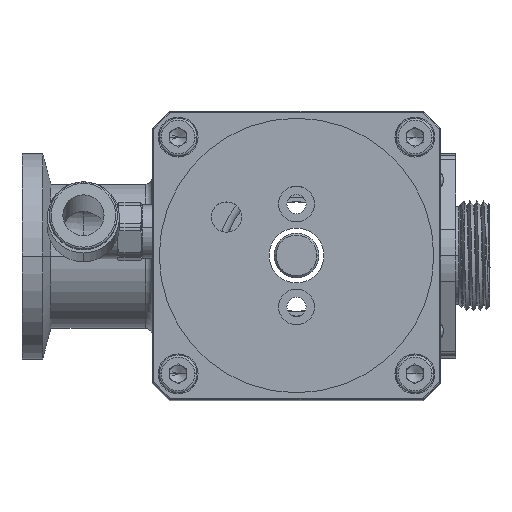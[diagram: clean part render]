
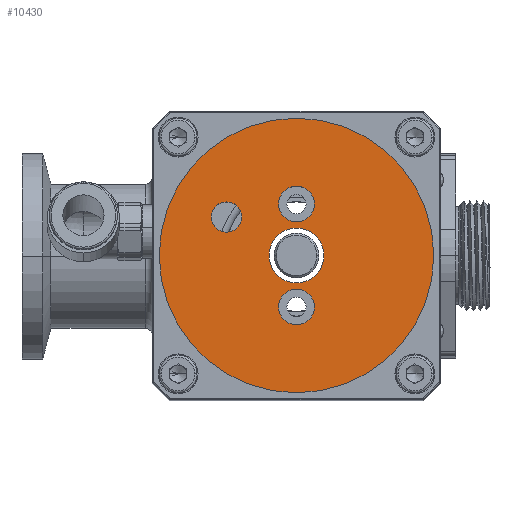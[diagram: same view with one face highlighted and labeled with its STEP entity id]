
A CAD part, top view. The second image highlights one B-rep face of the part: STEP entity #10430.
In plain terms, the highlighted planar face has unit normal (0, 0, 1).
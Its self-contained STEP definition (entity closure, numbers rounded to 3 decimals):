
#102 = CARTESIAN_POINT ( 'NONE',  ( -8., 5.6, 87.8 ) ) ;
#229 = CIRCLE ( 'NONE', #2751, 4. ) ;
#247 = EDGE_LOOP ( 'NONE', ( #4146, #2441 ) ) ;
#308 = DIRECTION ( 'NONE',  ( 0., 0., 1. ) ) ;
#330 = AXIS2_PLACEMENT_3D ( 'NONE', #4486, #12132, #9391 ) ;
#396 = CIRCLE ( 'NONE', #7054, 2.6 ) ;
#491 = EDGE_CURVE ( 'NONE', #4944, #7074, #11971, .T. ) ;
#503 = CARTESIAN_POINT ( 'NONE',  ( 0., 0., 87.8 ) ) ;
#523 = DIRECTION ( 'NONE',  ( 1., 0., 0. ) ) ;
#737 = DIRECTION ( 'NONE',  ( 0., 0., 1. ) ) ;
#758 = DIRECTION ( 'NONE',  ( 1., 0., 0. ) ) ;
#832 = FACE_BOUND ( 'NONE', #13118, .T. ) ;
#861 = CIRCLE ( 'NONE', #8599, 2.6 ) ;
#963 = EDGE_CURVE ( 'NONE', #5778, #12424, #10087, .T. ) ;
#968 = EDGE_CURVE ( 'NONE', #12764, #2480, #861, .T. ) ;
#1001 = VERTEX_POINT ( 'NONE', #8395 ) ;
#1219 = CARTESIAN_POINT ( 'NONE',  ( -2.6, -7.5, 87.8 ) ) ;
#1371 = ORIENTED_EDGE ( 'NONE', *, *, #12512, .F. ) ;
#1500 = EDGE_CURVE ( 'NONE', #7074, #4944, #8007, .T. ) ;
#1610 = CARTESIAN_POINT ( 'NONE',  ( 20., 0., 87.8 ) ) ;
#1702 = DIRECTION ( 'NONE',  ( 0., 0., 1. ) ) ;
#1890 = CARTESIAN_POINT ( 'NONE',  ( 2.6, -7.5, 87.8 ) ) ;
#1909 = ORIENTED_EDGE ( 'NONE', *, *, #968, .F. ) ;
#2010 = DIRECTION ( 'NONE',  ( 1., 0., 0. ) ) ;
#2441 = ORIENTED_EDGE ( 'NONE', *, *, #963, .T. ) ;
#2480 = VERTEX_POINT ( 'NONE', #10368 ) ;
#2604 = DIRECTION ( 'NONE',  ( 1., 0., 0. ) ) ;
#2701 = FACE_OUTER_BOUND ( 'NONE', #11518, .T. ) ;
#2751 = AXIS2_PLACEMENT_3D ( 'NONE', #503, #7066, #13482 ) ;
#3032 = FACE_BOUND ( 'NONE', #5966, .T. ) ;
#3642 = CARTESIAN_POINT ( 'NONE',  ( 0., -7.5, 87.8 ) ) ;
#3988 = PLANE ( 'NONE',  #8147 ) ;
#3995 = DIRECTION ( 'NONE',  ( 0., 0., 1. ) ) ;
#4030 = CIRCLE ( 'NONE', #6263, 2.6 ) ;
#4146 = ORIENTED_EDGE ( 'NONE', *, *, #8516, .T. ) ;
#4184 = DIRECTION ( 'NONE',  ( 0., 0., 1. ) ) ;
#4213 = AXIS2_PLACEMENT_3D ( 'NONE', #8354, #737, #7252 ) ;
#4477 = EDGE_LOOP ( 'NONE', ( #10635, #1909 ) ) ;
#4482 = ORIENTED_EDGE ( 'NONE', *, *, #5906, .F. ) ;
#4486 = CARTESIAN_POINT ( 'NONE',  ( -10.2, 5.6, 87.8 ) ) ;
#4635 = DIRECTION ( 'NONE',  ( 1., 0., 0. ) ) ;
#4944 = VERTEX_POINT ( 'NONE', #12452 ) ;
#5607 = FACE_BOUND ( 'NONE', #4477, .T. ) ;
#5655 = CARTESIAN_POINT ( 'NONE',  ( -12.4, 5.6, 87.8 ) ) ;
#5778 = VERTEX_POINT ( 'NONE', #5655 ) ;
#5906 = EDGE_CURVE ( 'NONE', #1001, #6339, #229, .T. ) ;
#5965 = DIRECTION ( 'NONE',  ( 0., 0., -1. ) ) ;
#5966 = EDGE_LOOP ( 'NONE', ( #4482, #11712 ) ) ;
#6146 = CIRCLE ( 'NONE', #6222, 2.6 ) ;
#6222 = AXIS2_PLACEMENT_3D ( 'NONE', #6454, #13087, #2010 ) ;
#6263 = AXIS2_PLACEMENT_3D ( 'NONE', #3642, #308, #4635 ) ;
#6339 = VERTEX_POINT ( 'NONE', #13333 ) ;
#6454 = CARTESIAN_POINT ( 'NONE',  ( 0., 7.5, 87.8 ) ) ;
#6522 = CARTESIAN_POINT ( 'NONE',  ( 0., 0., 87.8 ) ) ;
#6623 = EDGE_CURVE ( 'NONE', #9788, #12477, #396, .T. ) ;
#6732 = EDGE_CURVE ( 'NONE', #6339, #1001, #8931, .T. ) ;
#7029 = CARTESIAN_POINT ( 'NONE',  ( 0., 7.5, 87.8 ) ) ;
#7054 = AXIS2_PLACEMENT_3D ( 'NONE', #11690, #8470, #758 ) ;
#7066 = DIRECTION ( 'NONE',  ( 0., 0., 1. ) ) ;
#7074 = VERTEX_POINT ( 'NONE', #1610 ) ;
#7252 = DIRECTION ( 'NONE',  ( 1., 0., 0. ) ) ;
#7360 = EDGE_CURVE ( 'NONE', #2480, #12764, #6146, .T. ) ;
#7577 = AXIS2_PLACEMENT_3D ( 'NONE', #6522, #4184, #9573 ) ;
#8007 = CIRCLE ( 'NONE', #4213, 20. ) ;
#8131 = DIRECTION ( 'NONE',  ( 1., 0., 0. ) ) ;
#8147 = AXIS2_PLACEMENT_3D ( 'NONE', #11446, #1702, #8131 ) ;
#8354 = CARTESIAN_POINT ( 'NONE',  ( 0., 0., 87.8 ) ) ;
#8395 = CARTESIAN_POINT ( 'NONE',  ( -4., 0., 87.8 ) ) ;
#8470 = DIRECTION ( 'NONE',  ( 0., 0., 1. ) ) ;
#8516 = EDGE_CURVE ( 'NONE', #12424, #5778, #10577, .T. ) ;
#8599 = AXIS2_PLACEMENT_3D ( 'NONE', #7029, #12435, #2604 ) ;
#8931 = CIRCLE ( 'NONE', #7577, 4. ) ;
#8946 = ORIENTED_EDGE ( 'NONE', *, *, #491, .T. ) ;
#9198 = FACE_BOUND ( 'NONE', #247, .T. ) ;
#9227 = CARTESIAN_POINT ( 'NONE',  ( -10.2, 5.6, 87.8 ) ) ;
#9391 = DIRECTION ( 'NONE',  ( 1., 0., 0. ) ) ;
#9573 = DIRECTION ( 'NONE',  ( 1., 0., 0. ) ) ;
#9788 = VERTEX_POINT ( 'NONE', #1890 ) ;
#9890 = AXIS2_PLACEMENT_3D ( 'NONE', #9227, #5965, #13613 ) ;
#10087 = CIRCLE ( 'NONE', #9890, 2.2 ) ;
#10368 = CARTESIAN_POINT ( 'NONE',  ( -2.6, 7.5, 87.8 ) ) ;
#10430 = ADVANCED_FACE ( 'NONE', ( #3032, #5607, #832, #2701, #9198 ), #3988, .T. ) ;
#10477 = CARTESIAN_POINT ( 'NONE',  ( 0., 0., 87.8 ) ) ;
#10577 = CIRCLE ( 'NONE', #330, 2.2 ) ;
#10635 = ORIENTED_EDGE ( 'NONE', *, *, #7360, .F. ) ;
#11446 = CARTESIAN_POINT ( 'NONE',  ( 0., 0., 87.8 ) ) ;
#11518 = EDGE_LOOP ( 'NONE', ( #13534, #8946 ) ) ;
#11690 = CARTESIAN_POINT ( 'NONE',  ( 0., -7.5, 87.8 ) ) ;
#11712 = ORIENTED_EDGE ( 'NONE', *, *, #6732, .F. ) ;
#11971 = CIRCLE ( 'NONE', #13619, 20. ) ;
#12132 = DIRECTION ( 'NONE',  ( 0., 0., -1. ) ) ;
#12140 = CARTESIAN_POINT ( 'NONE',  ( 2.6, 7.5, 87.8 ) ) ;
#12424 = VERTEX_POINT ( 'NONE', #102 ) ;
#12435 = DIRECTION ( 'NONE',  ( 0., 0., 1. ) ) ;
#12452 = CARTESIAN_POINT ( 'NONE',  ( -20., 0., 87.8 ) ) ;
#12477 = VERTEX_POINT ( 'NONE', #1219 ) ;
#12512 = EDGE_CURVE ( 'NONE', #12477, #9788, #4030, .T. ) ;
#12528 = ORIENTED_EDGE ( 'NONE', *, *, #6623, .F. ) ;
#12764 = VERTEX_POINT ( 'NONE', #12140 ) ;
#13087 = DIRECTION ( 'NONE',  ( 0., 0., 1. ) ) ;
#13118 = EDGE_LOOP ( 'NONE', ( #1371, #12528 ) ) ;
#13333 = CARTESIAN_POINT ( 'NONE',  ( 4., 0., 87.8 ) ) ;
#13482 = DIRECTION ( 'NONE',  ( 1., 0., 0. ) ) ;
#13534 = ORIENTED_EDGE ( 'NONE', *, *, #1500, .T. ) ;
#13613 = DIRECTION ( 'NONE',  ( 1., 0., 0. ) ) ;
#13619 = AXIS2_PLACEMENT_3D ( 'NONE', #10477, #3995, #523 ) ;
